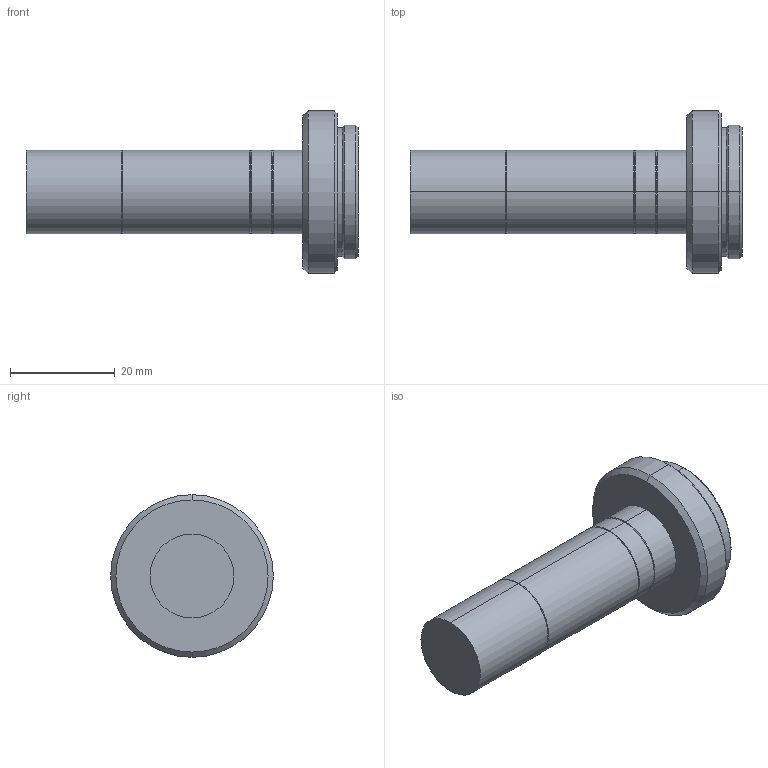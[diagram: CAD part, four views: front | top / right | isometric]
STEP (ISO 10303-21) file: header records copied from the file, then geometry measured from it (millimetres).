
FILE_DESCRIPTION (( 'STEP AP203' ), '1' );
FILE_NAME ('VS-TC3-65.STEP', '2020-02-13T00:53:49', ( '' ), ( '' ), 'SwSTEP 2.0', 'SolidWorks 2017', '' );
FILE_SCHEMA (( 'CONFIG_CONTROL_DESIGN' ));
Length unit declared in the file: millimetre
Products named in the file (1): VS-TC3-65
Bounding box: 63.3 x 31 x 31 mm (x, y, z)
Volume: 17443.7 mm3; surface area: 5063.4 mm2
Topology: 1 solids, 1 shells, 38 faces, 74 edges, 40 vertices
Faces by surface type: cone 20, cylinder 14, plane 4
Entity records: 1031 total; most frequent: DIRECTION 192, CARTESIAN_POINT 153, ORIENTED_EDGE 148, AXIS2_PLACEMENT_3D 79, EDGE_CURVE 74, CIRCLE 40, EDGE_LOOP 40, VERTEX_POINT 40
